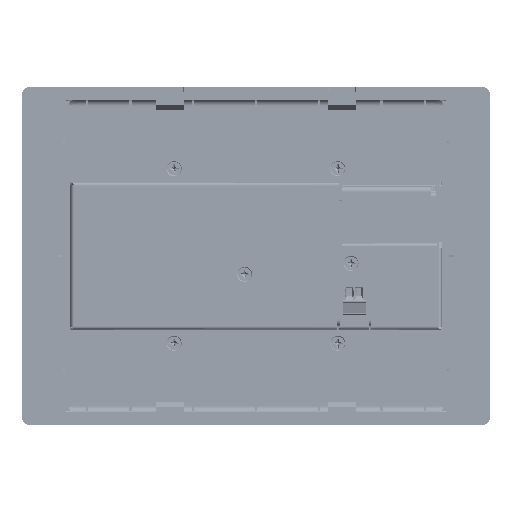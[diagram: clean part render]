
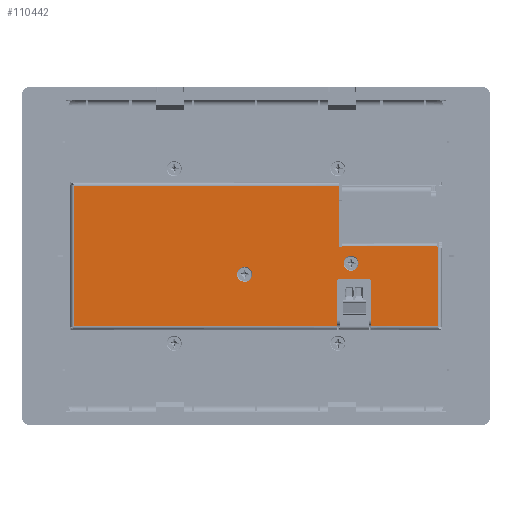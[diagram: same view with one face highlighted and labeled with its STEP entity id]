
A CAD part, front view. The second image highlights one B-rep face of the part: STEP entity #110442.
In plain terms, the highlighted planar face has unit normal (0, -1, 0).
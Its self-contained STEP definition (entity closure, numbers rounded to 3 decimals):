
#105119=DIRECTION('',(1.,0.,0.));
#105120=VECTOR('',#105119,96.525);
#105121=CARTESIAN_POINT('',(-66.8,-34.3,-25.8));
#105122=LINE('',#105121,#105120);
#105681=DIRECTION('',(1.,0.,0.));
#105682=VECTOR('',#105681,24.525);
#105683=CARTESIAN_POINT('',(42.275,-34.3,-25.8));
#105684=LINE('',#105683,#105682);
#105705=CARTESIAN_POINT('',(41.275,-34.3,-9.4));
#105706=DIRECTION('',(0.,-1.,0.));
#105707=DIRECTION('',(1.,0.,0.));
#105708=AXIS2_PLACEMENT_3D('',#105705,#105706,#105707);
#105713=DIRECTION('',(-1.,0.,0.));
#105714=VECTOR('',#105713,10.55);
#105715=CARTESIAN_POINT('',(41.275,-34.3,-8.4));
#105716=LINE('',#105715,#105714);
#105720=CARTESIAN_POINT('',(30.725,-34.3,-9.4));
#105721=DIRECTION('',(0.,-1.,0.));
#105722=DIRECTION('',(0.,0.,1.));
#105723=AXIS2_PLACEMENT_3D('',#105720,#105721,#105722);
#105728=DIRECTION('',(0.,0.,-1.));
#105729=VECTOR('',#105728,16.4);
#105730=CARTESIAN_POINT('',(29.725,-34.3,-9.4));
#105731=LINE('',#105730,#105729);
#105735=DIRECTION('',(0.,0.,-1.));
#105736=VECTOR('',#105735,1.);
#105737=CARTESIAN_POINT('',(30.5,-34.3,4.725));
#105738=LINE('',#105737,#105736);
#105742=CARTESIAN_POINT('',(31.,-34.3,3.725));
#105743=DIRECTION('',(0.,-1.,0.));
#105744=DIRECTION('',(-1.,0.,0.));
#105745=AXIS2_PLACEMENT_3D('',#105742,#105743,#105744);
#105750=DIRECTION('',(0.,0.,-1.));
#105751=VECTOR('',#105750,0.2);
#105752=CARTESIAN_POINT('',(31.5,-34.3,3.725));
#105753=LINE('',#105752,#105751);
#105757=CARTESIAN_POINT('',(67.207,-34.3,3.932));
#105758=DIRECTION('',(0.,-1.,0.));
#105759=DIRECTION('',(-0.913,0.,-0.407));
#105760=AXIS2_PLACEMENT_3D('',#105757,#105758,#105759);
#105765=CARTESIAN_POINT('',(34.818,-34.3,-2.709));
#105766=DIRECTION('',(0.,-1.,0.));
#105767=DIRECTION('',(1.,0.,0.));
#105768=AXIS2_PLACEMENT_3D('',#105765,#105766,#105767);
#105773=CARTESIAN_POINT('',(34.818,-34.3,-2.709));
#105774=DIRECTION('',(0.,-1.,0.));
#105775=DIRECTION('',(0.,0.,1.));
#105776=AXIS2_PLACEMENT_3D('',#105773,#105774,#105775);
#105781=CARTESIAN_POINT('',(34.818,-34.3,-2.709));
#105782=DIRECTION('',(0.,-1.,0.));
#105783=DIRECTION('',(-1.,0.,0.));
#105784=AXIS2_PLACEMENT_3D('',#105781,#105782,#105783);
#105789=CARTESIAN_POINT('',(34.818,-34.3,-2.709));
#105790=DIRECTION('',(0.,-1.,0.));
#105791=DIRECTION('',(0.,0.,-1.));
#105792=AXIS2_PLACEMENT_3D('',#105789,#105790,#105791);
#105797=CARTESIAN_POINT('',(-4.182,-34.3,-6.709));
#105798=DIRECTION('',(0.,-1.,0.));
#105799=DIRECTION('',(1.,0.,0.));
#105800=AXIS2_PLACEMENT_3D('',#105797,#105798,#105799);
#105805=CARTESIAN_POINT('',(-4.182,-34.3,-6.709));
#105806=DIRECTION('',(0.,-1.,0.));
#105807=DIRECTION('',(0.,0.,1.));
#105808=AXIS2_PLACEMENT_3D('',#105805,#105806,#105807);
#105813=CARTESIAN_POINT('',(-4.182,-34.3,-6.709));
#105814=DIRECTION('',(0.,-1.,0.));
#105815=DIRECTION('',(-1.,0.,0.));
#105816=AXIS2_PLACEMENT_3D('',#105813,#105814,#105815);
#105821=CARTESIAN_POINT('',(-4.182,-34.3,-6.709));
#105822=DIRECTION('',(0.,-1.,0.));
#105823=DIRECTION('',(0.,0.,-1.));
#105824=AXIS2_PLACEMENT_3D('',#105821,#105822,#105823);
#105829=DIRECTION('',(0.,0.,-1.));
#105830=VECTOR('',#105829,16.4);
#105831=CARTESIAN_POINT('',(42.275,-34.3,-9.4));
#105832=LINE('',#105831,#105830);
#105871=DIRECTION('',(0.,0.,-1.));
#105872=VECTOR('',#105871,51.6);
#105873=CARTESIAN_POINT('',(-66.8,-34.3,25.8));
#105874=LINE('',#105873,#105872);
#106418=DIRECTION('',(0.,0.,1.));
#106419=VECTOR('',#106418,21.075);
#106420=CARTESIAN_POINT('',(30.5,-34.3,4.725));
#106421=LINE('',#106420,#106419);
#106623=DIRECTION('',(0.,0.,1.));
#106624=VECTOR('',#106623,28.819);
#106625=CARTESIAN_POINT('',(66.8,-34.3,-25.8));
#106626=LINE('',#106625,#106624);
#107168=DIRECTION('',(-1.,0.,0.));
#107169=VECTOR('',#107168,34.794);
#107170=CARTESIAN_POINT('',(66.294,-34.3,3.525));
#107171=LINE('',#107170,#107169);
#107360=DIRECTION('',(-1.,0.,0.));
#107361=VECTOR('',#107360,97.3);
#107362=CARTESIAN_POINT('',(30.5,-34.3,25.8));
#107363=LINE('',#107362,#107361);
#109007=CARTESIAN_POINT('',(30.725,-34.3,-8.4));
#109008=VERTEX_POINT('',#109007);
#109009=CARTESIAN_POINT('',(41.275,-34.3,-8.4));
#109010=VERTEX_POINT('',#109009);
#109011=CARTESIAN_POINT('',(29.725,-34.3,-9.4));
#109012=VERTEX_POINT('',#109011);
#109013=CARTESIAN_POINT('',(29.725,-34.3,-25.8));
#109014=VERTEX_POINT('',#109013);
#109024=CARTESIAN_POINT('',(-66.8,-34.3,-25.8));
#109025=VERTEX_POINT('',#109024);
#109128=CARTESIAN_POINT('',(42.275,-34.3,-25.8));
#109129=VERTEX_POINT('',#109128);
#109133=CARTESIAN_POINT('',(66.8,-34.3,-25.8));
#109134=VERTEX_POINT('',#109133);
#109135=CARTESIAN_POINT('',(42.275,-34.3,-9.4));
#109136=VERTEX_POINT('',#109135);
#109137=CARTESIAN_POINT('',(-66.8,-34.3,25.8));
#109138=VERTEX_POINT('',#109137);
#109139=CARTESIAN_POINT('',(30.5,-34.3,25.8));
#109140=VERTEX_POINT('',#109139);
#109141=CARTESIAN_POINT('',(30.5,-34.3,4.725));
#109142=VERTEX_POINT('',#109141);
#109143=CARTESIAN_POINT('',(30.5,-34.3,3.725));
#109144=VERTEX_POINT('',#109143);
#109145=CARTESIAN_POINT('',(31.5,-34.3,3.725));
#109146=VERTEX_POINT('',#109145);
#109147=CARTESIAN_POINT('',(31.5,-34.3,3.525));
#109148=VERTEX_POINT('',#109147);
#109149=CARTESIAN_POINT('',(66.294,-34.3,3.525));
#109150=VERTEX_POINT('',#109149);
#109151=CARTESIAN_POINT('',(66.8,-34.3,3.019));
#109152=VERTEX_POINT('',#109151);
#109153=CARTESIAN_POINT('',(34.818,-34.3,0.041));
#109154=CARTESIAN_POINT('',(32.068,-34.3,-2.709));
#109155=VERTEX_POINT('',#109153);
#109156=VERTEX_POINT('',#109154);
#109157=CARTESIAN_POINT('',(37.568,-34.3,-2.709));
#109158=VERTEX_POINT('',#109157);
#109159=CARTESIAN_POINT('',(34.818,-34.3,-5.459));
#109160=VERTEX_POINT('',#109159);
#109161=CARTESIAN_POINT('',(-4.182,-34.3,-3.959));
#109162=CARTESIAN_POINT('',(-6.932,-34.3,-6.709));
#109163=VERTEX_POINT('',#109161);
#109164=VERTEX_POINT('',#109162);
#109165=CARTESIAN_POINT('',(-1.432,-34.3,-6.709));
#109166=VERTEX_POINT('',#109165);
#109167=CARTESIAN_POINT('',(-4.182,-34.3,-9.459));
#109168=VERTEX_POINT('',#109167);
#110388=CARTESIAN_POINT('',(0.,-34.3,0.));
#110389=DIRECTION('',(0.,-1.,0.));
#110390=DIRECTION('',(1.,0.,0.));
#110391=AXIS2_PLACEMENT_3D('',#110388,#110389,#110390);
#110392=PLANE('',#110391);
#110394=ORIENTED_EDGE('',*,*,#110393,.F.);
#110396=ORIENTED_EDGE('',*,*,#110395,.T.);
#110397=ORIENTED_EDGE('',*,*,#109695,.T.);
#110398=ORIENTED_EDGE('',*,*,#109712,.T.);
#110399=ORIENTED_EDGE('',*,*,#109726,.T.);
#110400=ORIENTED_EDGE('',*,*,#109841,.F.);
#110402=ORIENTED_EDGE('',*,*,#110401,.F.);
#110404=ORIENTED_EDGE('',*,*,#110403,.F.);
#110406=ORIENTED_EDGE('',*,*,#110405,.F.);
#110408=ORIENTED_EDGE('',*,*,#110407,.T.);
#110410=ORIENTED_EDGE('',*,*,#110409,.T.);
#110412=ORIENTED_EDGE('',*,*,#110411,.T.);
#110414=ORIENTED_EDGE('',*,*,#110413,.F.);
#110416=ORIENTED_EDGE('',*,*,#110415,.T.);
#110418=ORIENTED_EDGE('',*,*,#110417,.F.);
#110419=ORIENTED_EDGE('',*,*,#110380,.F.);
#110420=EDGE_LOOP('',(#110394,#110396,#110397,#110398,#110399,#110400,#110402,
#110404,#110406,#110408,#110410,#110412,#110414,#110416,#110418,#110419));
#110421=FACE_OUTER_BOUND('',#110420,.F.);
#110423=ORIENTED_EDGE('',*,*,#110422,.T.);
#110425=ORIENTED_EDGE('',*,*,#110424,.T.);
#110427=ORIENTED_EDGE('',*,*,#110426,.T.);
#110429=ORIENTED_EDGE('',*,*,#110428,.T.);
#110430=EDGE_LOOP('',(#110423,#110425,#110427,#110429));
#110431=FACE_BOUND('',#110430,.F.);
#110433=ORIENTED_EDGE('',*,*,#110432,.T.);
#110435=ORIENTED_EDGE('',*,*,#110434,.T.);
#110437=ORIENTED_EDGE('',*,*,#110436,.T.);
#110439=ORIENTED_EDGE('',*,*,#110438,.T.);
#110440=EDGE_LOOP('',(#110433,#110435,#110437,#110439));
#110441=FACE_BOUND('',#110440,.F.);
#105709=CIRCLE('',#105708,1.);
#105724=CIRCLE('',#105723,1.);
#105746=CIRCLE('',#105745,0.5);
#105761=CIRCLE('',#105760,1.);
#105769=CIRCLE('',#105768,2.75);
#105777=CIRCLE('',#105776,2.75);
#105785=CIRCLE('',#105784,2.75);
#105793=CIRCLE('',#105792,2.75);
#105801=CIRCLE('',#105800,2.75);
#105809=CIRCLE('',#105808,2.75);
#105817=CIRCLE('',#105816,2.75);
#105825=CIRCLE('',#105824,2.75);
#109695=EDGE_CURVE('',#109010,#109008,#105716,.T.);
#109712=EDGE_CURVE('',#109008,#109012,#105724,.T.);
#109726=EDGE_CURVE('',#109012,#109014,#105731,.T.);
#109841=EDGE_CURVE('',#109025,#109014,#105122,.T.);
#110380=EDGE_CURVE('',#109129,#109134,#105684,.T.);
#110393=EDGE_CURVE('',#109136,#109129,#105832,.T.);
#110395=EDGE_CURVE('',#109136,#109010,#105709,.T.);
#110401=EDGE_CURVE('',#109138,#109025,#105874,.T.);
#110403=EDGE_CURVE('',#109140,#109138,#107363,.T.);
#110405=EDGE_CURVE('',#109142,#109140,#106421,.T.);
#110407=EDGE_CURVE('',#109142,#109144,#105738,.T.);
#110409=EDGE_CURVE('',#109144,#109146,#105746,.T.);
#110411=EDGE_CURVE('',#109146,#109148,#105753,.T.);
#110413=EDGE_CURVE('',#109150,#109148,#107171,.T.);
#110415=EDGE_CURVE('',#109150,#109152,#105761,.T.);
#110417=EDGE_CURVE('',#109134,#109152,#106626,.T.);
#110422=EDGE_CURVE('',#109158,#109155,#105769,.T.);
#110424=EDGE_CURVE('',#109155,#109156,#105777,.T.);
#110426=EDGE_CURVE('',#109156,#109160,#105785,.T.);
#110428=EDGE_CURVE('',#109160,#109158,#105793,.T.);
#110432=EDGE_CURVE('',#109166,#109163,#105801,.T.);
#110434=EDGE_CURVE('',#109163,#109164,#105809,.T.);
#110436=EDGE_CURVE('',#109164,#109168,#105817,.T.);
#110438=EDGE_CURVE('',#109168,#109166,#105825,.T.);
#110442=ADVANCED_FACE('',(#110421,#110431,#110441),#110392,.T.);
